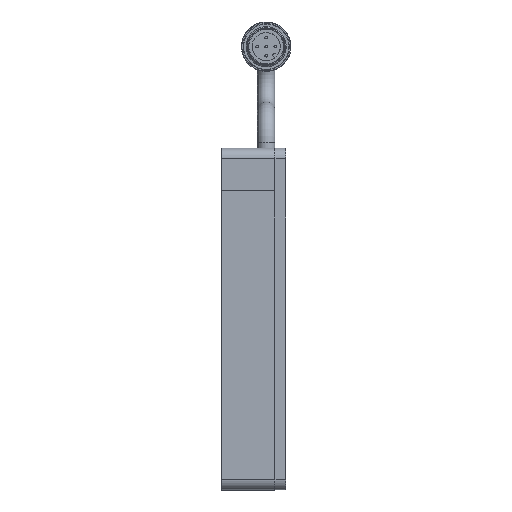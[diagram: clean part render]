
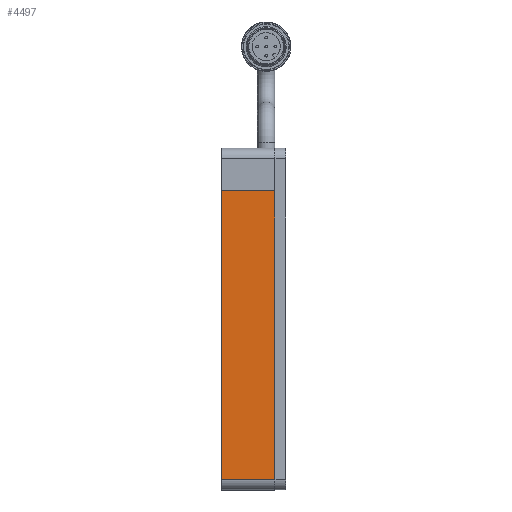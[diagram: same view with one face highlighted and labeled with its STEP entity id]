
A CAD part, left-side view. The second image highlights one B-rep face of the part: STEP entity #4497.
In plain terms, the highlighted planar face has unit normal (-1, 0, 0) as drawn and (0, 0, -1) by its records, which use the part's own axes.
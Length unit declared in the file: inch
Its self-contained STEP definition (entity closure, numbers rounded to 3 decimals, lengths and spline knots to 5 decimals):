
#125 = ORIENTED_EDGE ( 'NONE', *, *, #2346, .F. ) ;
#509 = FACE_OUTER_BOUND ( 'NONE', #1890, .T. ) ;
#944 = VERTEX_POINT ( 'NONE', #10461 ) ;
#1263 = AXIS2_PLACEMENT_3D ( 'NONE', #8630, #6633, #12768 ) ;
#1430 = LINE ( 'NONE', #5496, #7709 ) ;
#1586 = PLANE ( 'NONE',  #1263 ) ;
#1890 = EDGE_LOOP ( 'NONE', ( #125, #4336, #6920, #12518 ) ) ;
#2001 = CARTESIAN_POINT ( 'NONE',  ( -1.5, -0.3125, -0.25 ) ) ;
#2346 = EDGE_CURVE ( 'NONE', #12346, #9418, #2436, .T. ) ;
#2436 = LINE ( 'NONE', #11291, #3021 ) ;
#2496 = CARTESIAN_POINT ( 'NONE',  ( 1.875, -0.3125, -0.25 ) ) ;
#2562 = DIRECTION ( 'NONE',  ( -1., 0., 0. ) ) ;
#3021 = VECTOR ( 'NONE', #8420, 39.37008 ) ;
#3245 = LINE ( 'NONE', #2001, #11942 ) ;
#3930 = LINE ( 'NONE', #11979, #7371 ) ;
#4336 = ORIENTED_EDGE ( 'NONE', *, *, #12474, .T. ) ;
#4497 = ADVANCED_FACE ( 'NONE', ( #509 ), #1586, .F. ) ;
#4808 = DIRECTION ( 'NONE',  ( 0., -1., 0. ) ) ;
#5496 = CARTESIAN_POINT ( 'NONE',  ( -2., -0.3125, -0.25 ) ) ;
#6278 = EDGE_CURVE ( 'NONE', #944, #9418, #3245, .T. ) ;
#6633 = DIRECTION ( 'NONE',  ( 0., 0., 1. ) ) ;
#6920 = ORIENTED_EDGE ( 'NONE', *, *, #7672, .T. ) ;
#7371 = VECTOR ( 'NONE', #4808, 39.37008 ) ;
#7672 = EDGE_CURVE ( 'NONE', #7747, #944, #1430, .T. ) ;
#7709 = VECTOR ( 'NONE', #2562, 39.37008 ) ;
#7747 = VERTEX_POINT ( 'NONE', #2496 ) ;
#8173 = DIRECTION ( 'NONE',  ( 0., 1., 0. ) ) ;
#8420 = DIRECTION ( 'NONE',  ( -1., 0., 0. ) ) ;
#8630 = CARTESIAN_POINT ( 'NONE',  ( -2., 0.3125, -0.25 ) ) ;
#9418 = VERTEX_POINT ( 'NONE', #9588 ) ;
#9588 = CARTESIAN_POINT ( 'NONE',  ( -1.5, 0.3125, -0.25 ) ) ;
#9766 = CARTESIAN_POINT ( 'NONE',  ( 1.875, 0.3125, -0.25 ) ) ;
#10461 = CARTESIAN_POINT ( 'NONE',  ( -1.5, -0.3125, -0.25 ) ) ;
#11291 = CARTESIAN_POINT ( 'NONE',  ( -2., 0.3125, -0.25 ) ) ;
#11942 = VECTOR ( 'NONE', #8173, 39.37008 ) ;
#11979 = CARTESIAN_POINT ( 'NONE',  ( 1.875, 0.3125, -0.25 ) ) ;
#12346 = VERTEX_POINT ( 'NONE', #9766 ) ;
#12474 = EDGE_CURVE ( 'NONE', #12346, #7747, #3930, .T. ) ;
#12518 = ORIENTED_EDGE ( 'NONE', *, *, #6278, .T. ) ;
#12768 = DIRECTION ( 'NONE',  ( 1., 0., 0. ) ) ;
